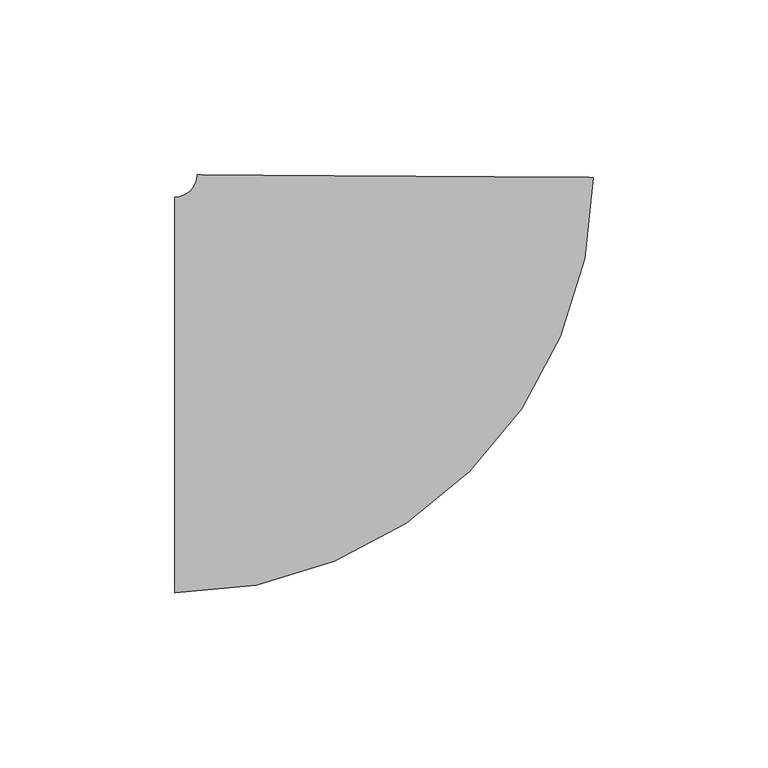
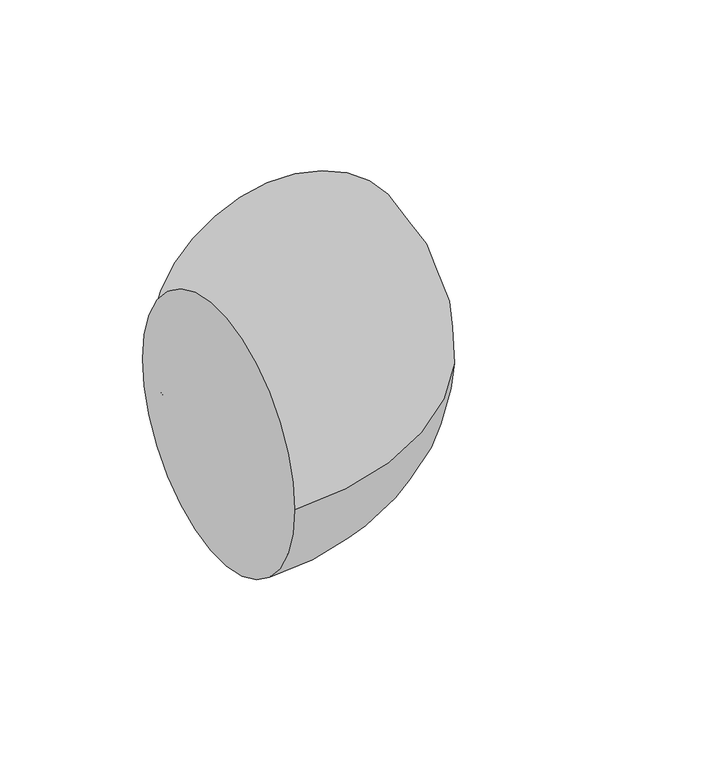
"""IFC4 building model written with IfcOpenShell, lengths in millimetres: pipe fitting geometry, M_Codo - Genérico : Estándar."""

from ifc_helpers import new_model, si_unit, point, frame, origin, place, context, project, spatial, circle_curve, ellipse_curve, trimmed, source, transform, mapped, element, save
from ifc_brep_helpers import plane_surface, revolved_surface, advanced_brep


def pipe_fitting_2ef3bc07(model_context):
    return source(origin(), model_context, "Body", "AdvancedBrep", [
        advanced_brep(
        [(-62.5319919, -56.5875, 0.0), (-62.5319919, 56.5875, 0.0), (56.9905112, 62.1649161, 0.0), (-56.1821245, 62.896455, 0.0)],
        [
            (0, 1, circle_curve(frame((-62.5319919, 0.0, 0.0), z_axis=(-1.0, 0.0, 0.0), x_axis=(0.0, 1.0, 0.0)), 56.5875)),
            (1, 0, circle_curve(frame((-62.5319919, 0.0, 0.0), z_axis=(-1.0, 0.0, 0.0), x_axis=(0.0, 1.0, 0.0)), 56.5875)),
            (2, 3, circle_curve(frame((0.4041933, 62.5306855, 0.0), z_axis=(0.006463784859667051, 0.999979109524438, 0.0), x_axis=(-0.999979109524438, 0.006463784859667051, 0.0)), 56.5875)),
            (3, 2, circle_curve(frame((0.4041933, 62.5306855, 0.0), z_axis=(0.006463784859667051, 0.999979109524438, 0.0), x_axis=(-0.999979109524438, 0.006463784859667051, 0.0)), 56.5875)),
            (3, 1, circle_curve(frame((-62.5319919, 62.9375, 0.0), z_axis=(0.0, 0.0, -1.0), x_axis=(0.0, -1.0, 0.0)), 6.35)),
            (0, 2, circle_curve(frame((-62.5319919, 62.9375, 0.0), z_axis=(0.0, 0.0, 1.0), x_axis=(0.0, -1.0, 0.0)), 119.525)),
        ],
        [
            plane_surface(frame((-62.5319919, 0.0, 0.0), z_axis=(-1.0, 0.0, 0.0), x_axis=(0.0, 0.0, 1.0))),
            plane_surface(frame((0.4041933, 62.5306855, 0.0), z_axis=(0.006463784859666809, 0.999979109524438, 0.0), x_axis=(0.0, 0.0, 1.0))),
            revolved_surface(trimmed(ellipse_curve(frame((-62.5319919, 0.0, 0.0), z_axis=(-1.0, 0.0, 0.0), x_axis=(0.0, 1.0, 0.0)), 56.5875, 56.5875), [point((-62.5319919, -56.5875, 0.0))], [point((-62.5319919, 56.5875, 0.0))], True, "CARTESIAN"), (-62.5319919, 62.9375, 0.0), (0.0, 0.0, 1.0)),
            revolved_surface(trimmed(ellipse_curve(frame((-62.5319919, 0.0, 0.0), z_axis=(-1.0, 0.0, 0.0), x_axis=(0.0, 1.0, 0.0)), 56.5875, 56.5875), [point((-62.5319919, 56.5875, 0.0))], [point((-62.5319919, -56.5875, 0.0))], True, "CARTESIAN"), (-62.5319919, 62.9375, 0.0), (0.0, 0.0, 1.0)),
        ],
        [
            (0, [[1, 2]]),
            (1, [[3, 4]]),
            (2, [[5, -1, 6, -4]]),
            (3, [[-6, -2, -5, -3]]),
        ],
    ),
    ])


if __name__ == "__main__":
    model = new_model("IFC4")
    model_context = context("Model", 3, world=origin())
    ifc_project = project(units=[si_unit("LENGTHUNIT", "METRE", prefix="MILLI")], contexts=[model_context])
    site = spatial("IfcSite", under=ifc_project)
    building = spatial("IfcBuilding", under=site)
    placement = place(None, origin())
    pipe_fitting_shape = pipe_fitting_2ef3bc07(model_context)
    element("IfcPipeFitting", 1, ObjectType="M_Codo - Genérico : Estándar", at=placement, inside=building, context=model_context, shape_type="MappedRepresentation", body=[
        mapped(pipe_fitting_shape, transform((0.0, 0.0, 0.0), x_axis=(1.0, 0.0, 0.0), y_axis=(0.0, 1.0, 0.0), z_axis=(0.0, 0.0, 1.0))),
    ])
    save(model, "model.ifc")
